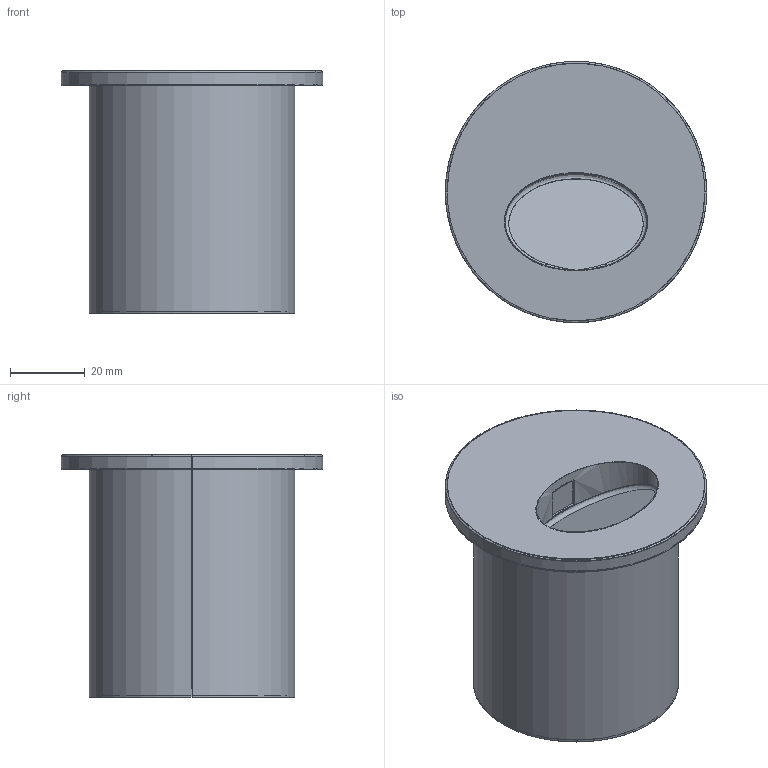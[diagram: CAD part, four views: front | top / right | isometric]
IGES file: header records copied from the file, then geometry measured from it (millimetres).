
Start section: SolidWorks IGES file using analytic representation for surfaces
Global section: file name: C:\Users\anna.bielnik\Desktop\AVA LED pm\AVA LED pm.IGS; native system: SolidWorks 2023; preprocessor: SolidWorks 2023; author: anna.bielnik; date: 241021.101428; units: millimetre
Bounding box: 70 x 70 x 65.03 mm (x, y, z)
Surface area: 38730 mm2 (no closed solid volume)
Topology: 0 solids, 0 shells, 60 faces, 1242 edges, 1242 vertices
Faces by surface type: bspline 42, revolution 18
